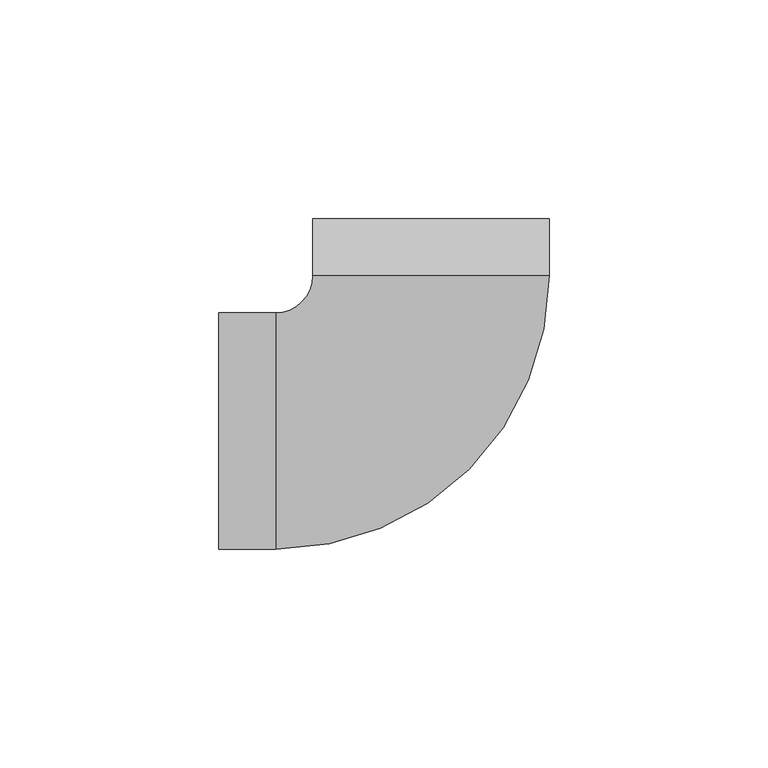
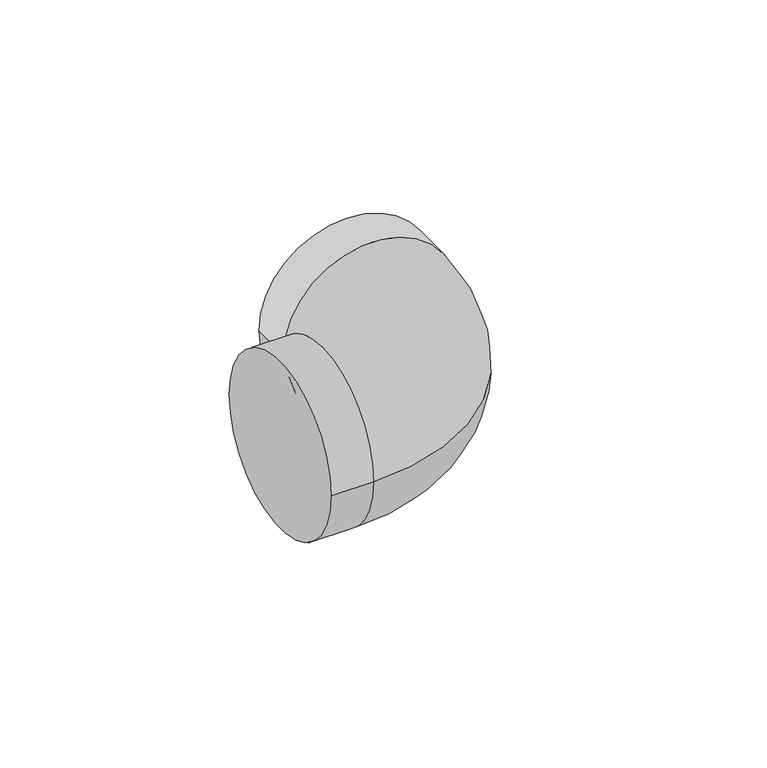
"""IFC4 building model written with IfcOpenShell, lengths in millimetres: pipe fitting geometry, PipeFitting_GirpiHTA_CPVC_Elbows_ForExpansionJoints : PipeFitting_GirpiHTA_CPVC_Elbows_ForExpansionJoints."""

from ifc_helpers import new_model, si_unit, point, frame, origin, place, context, project, spatial, circle_curve, ellipse_curve, trimmed, source, transform, mapped, element, save
from ifc_brep_helpers import plane_surface, cylinder_surface, revolved_surface, advanced_brep


def pipe_fitting_09979d7b(model_context):
    return source(origin(), model_context, "Body", "AdvancedBrep", [
        advanced_brep(
        [(-48.5, -27.0, 0.0), (-48.5, 27.0, 0.0), (-35.5, -27.0, 0.0), (-35.5, 27.0, 0.0), (-27.0, 35.5, 0.0), (27.0, 35.5, 0.0), (27.0, 48.5, 0.0), (-27.0, 48.5, 0.0)],
        [
            (0, 1, circle_curve(frame((-48.5, 0.0, 0.0), z_axis=(-1.0, 0.0, 0.0), x_axis=(0.0, 1.0, 0.0)), 27.0)),
            (1, 0, circle_curve(frame((-48.5, 0.0, 0.0), z_axis=(-1.0, 0.0, 0.0), x_axis=(0.0, 1.0, 0.0)), 27.0)),
            (0, 2),
            (2, 3, circle_curve(frame((-35.5, 0.0, 0.0), z_axis=(-1.0, 0.0, 0.0), x_axis=(0.0, 1.0, 0.0)), 27.0)),
            (3, 1),
            (3, 2, circle_curve(frame((-35.5, 0.0, 0.0), z_axis=(-1.0, 0.0, 0.0), x_axis=(0.0, 1.0, 0.0)), 27.0)),
            (4, 3, circle_curve(frame((-35.5, 35.5, 0.0), z_axis=(0.0, 0.0, -1.0), x_axis=(0.0, -1.0, 0.0)), 8.5)),
            (2, 5, circle_curve(frame((-35.5, 35.5, 0.0), z_axis=(0.0, 0.0, 1.0), x_axis=(0.0, -1.0, 0.0)), 62.5)),
            (5, 4, circle_curve(frame((0.0, 35.5, 0.0), z_axis=(0.0, -1.0, 0.0), x_axis=(-1.0, 0.0, 0.0)), 27.0)),
            (4, 5, circle_curve(frame((0.0, 35.5, 0.0), z_axis=(0.0, -1.0, 0.0), x_axis=(-1.0, 0.0, 0.0)), 27.0)),
            (6, 7, circle_curve(frame((0.0, 48.5, 0.0), z_axis=(0.0, 1.0, 0.0), x_axis=(-1.0, 0.0, 0.0)), 27.0)),
            (7, 6, circle_curve(frame((0.0, 48.5, 0.0), z_axis=(0.0, 1.0, 0.0), x_axis=(-1.0, 0.0, 0.0)), 27.0)),
            (5, 6),
            (7, 4),
        ],
        [
            plane_surface(frame((-48.5, 0.0, 0.0), z_axis=(-1.0, 0.0, 0.0), x_axis=(0.0, 0.0, 1.0))),
            cylinder_surface(frame((-48.5, 0.0, 0.0), z_axis=(-1.0, 0.0, 0.0), x_axis=(0.0, 1.0, 0.0)), 27.0),
            revolved_surface(trimmed(ellipse_curve(frame((-35.5, 0.0, 0.0), z_axis=(-1.0, 0.0, 0.0), x_axis=(0.0, 1.0, 0.0)), 27.0, 27.0), [point((-35.5, -27.0, 0.0))], [point((-35.5, 27.0, 0.0))], True, "CARTESIAN"), (-35.5, 35.5, 0.0), (0.0, 0.0, 1.0)),
            revolved_surface(trimmed(ellipse_curve(frame((-35.5, 0.0, 0.0), z_axis=(-1.0, 0.0, 0.0), x_axis=(0.0, 1.0, 0.0)), 27.0, 27.0), [point((-35.5, 27.0, 0.0))], [point((-35.5, -27.0, 0.0))], True, "CARTESIAN"), (-35.5, 35.5, 0.0), (0.0, 0.0, 1.0)),
            plane_surface(frame((0.0, 48.5, 0.0), z_axis=(0.0, 1.0, 0.0), x_axis=(0.0, 0.0, 1.0))),
            cylinder_surface(frame((0.0, 35.5, 0.0), z_axis=(0.0, -1.0, 0.0), x_axis=(-1.0, 0.0, 0.0)), 27.0),
        ],
        [
            (0, [[1, 2]]),
            (1, [[-1, 3, 4, 5]]),
            (1, [[-2, -5, 6, -3]]),
            (2, [[7, -4, 8, 9]]),
            (3, [[-8, -6, -7, 10]]),
            (4, [[11, 12]]),
            (5, [[-9, 13, -12, 14]]),
            (5, [[-10, -14, -11, -13]]),
        ],
    ),
    ])


if __name__ == "__main__":
    model = new_model("IFC4")
    model_context = context("Model", 3, world=origin())
    ifc_project = project(units=[si_unit("LENGTHUNIT", "METRE", prefix="MILLI")], contexts=[model_context])
    site = spatial("IfcSite", under=ifc_project)
    building = spatial("IfcBuilding", under=site)
    placement = place(None, origin())
    pipe_fitting_shape = pipe_fitting_09979d7b(model_context)
    element("IfcPipeFitting", 1, ObjectType="PipeFitting_GirpiHTA_CPVC_Elbows_ForExpansionJoints : PipeFitting_GirpiHTA_CPVC_Elbows_ForExpansionJoints", at=placement, inside=building, context=model_context, shape_type="MappedRepresentation", body=[
        mapped(pipe_fitting_shape, transform((0.0, 0.0, 0.0), x_axis=(1.0, 0.0, 0.0), y_axis=(0.0, 1.0, 0.0), z_axis=(0.0, 0.0, 1.0))),
    ])
    save(model, "model.ifc")
